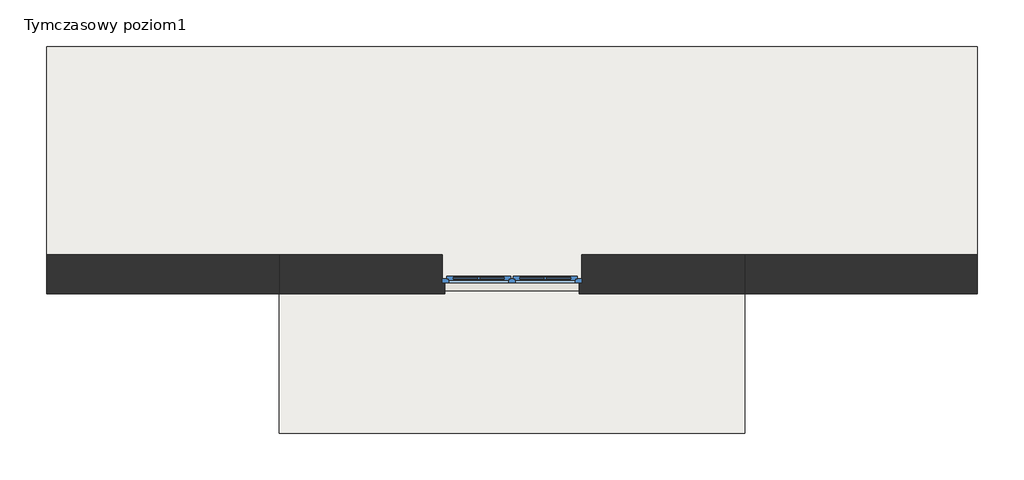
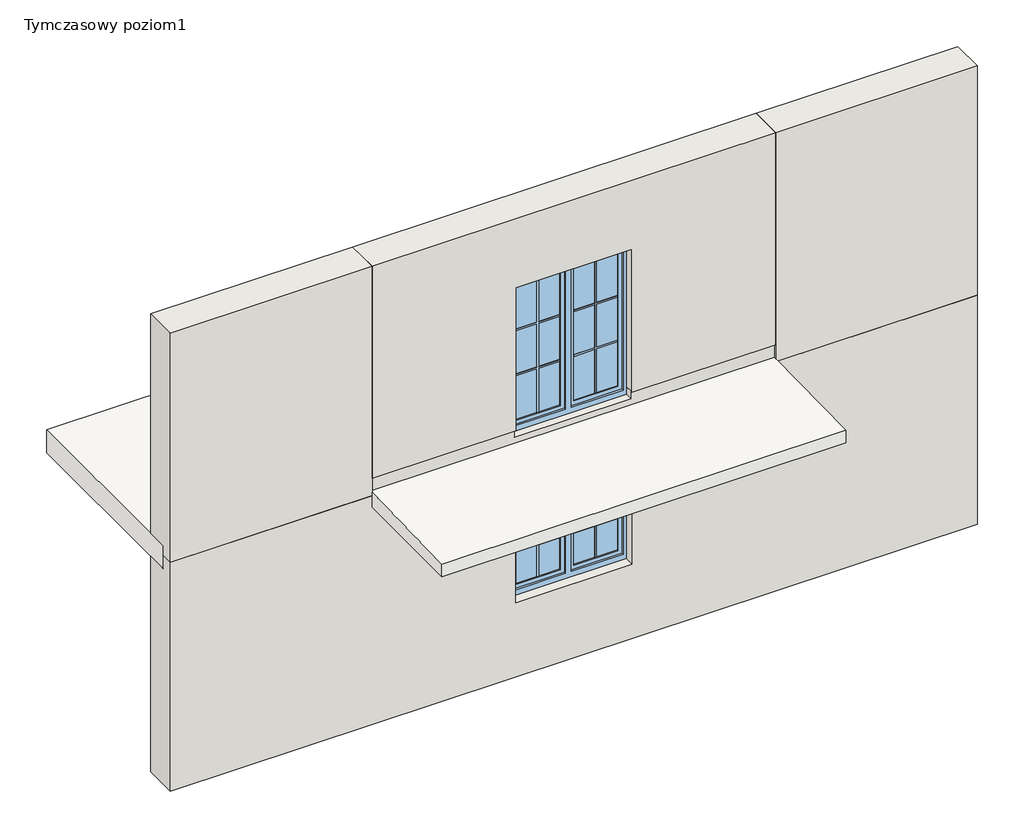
# One storey, part 1 of 4: 5 walls, 2 slabs, 2 windows.
"""IFC4 building model written with IfcOpenShell, lengths in millimetres."""

from ifc_helpers import new_model, si_unit, origin, place, context, project, spatial, faceted_brep, transform, mapped, element, save
from components import window_150x150_51b7f79a, window_150x200_12b14935

model = new_model("IFC4")

# Units and contexts
model_context = context("Model", 3, world=origin())
ifc_project = project(units=[si_unit("LENGTHUNIT", "METRE", prefix="MILLI")], contexts=[model_context])

# Site, building, storey
site = spatial("IfcSite", under=ifc_project)
building = spatial("IfcBuilding", under=site)
storey = spatial("IfcBuildingStorey", under=building, Name="Tymczasowy poziom1", Elevation=0.0)

# Slabs
placement = place(None, origin())
element("IfcSlab", 1, ObjectType="Balkon - posadzka żywiczna cienkowarstwowa", at=placement, inside=storey, context=model_context, shape_type="Brep", body=[
    faceted_brep([(-110659.9843298, 30072.1556932, -277.2), (-110659.9843298, 31572.1556932, -277.2), (-110659.9843298, 31680.1556932, -277.2), (-105659.9843298, 31680.1556932, -277.2), (-105659.9843298, 31572.1556932, -277.2), (-105659.9843298, 30072.1556932, -277.2), (-110659.9843298, 30072.1556932, -114.0), (-110659.9843298, 31602.1556932, -83.5522388), (-110659.9843298, 31680.1556932, -82.0), (-110659.9843298, 31680.1556932, -125.0), (-105659.9843298, 31680.1556932, -82.0), (-105659.9843298, 31680.1556932, -125.0), (-105659.9843298, 30072.1556932, -114.0), (-105659.9843298, 31602.1556932, -83.5522388)], [[[0, 1, 2, 3, 4, 5]], [[2, 1, 0, 6, 7, 8, 9]], [[3, 2, 9, 8, 10, 11]], [[0, 5, 12, 6]], [[5, 4, 3, 11, 10, 13, 12]], [[12, 13, 10, 8, 7, 6]]]),
])
element("IfcSlab", 2, ObjectType="Strop", at=placement, inside=storey, context=model_context, shape_type="Brep", body=[
    faceted_brep([(-103159.9843298, 31727.1556932, -300.0), (-113159.9843298, 31727.1556932, -300.0), (-113159.9843298, 31992.1556932, -300.0), (-113159.9843298, 34227.1556932, -300.0), (-103159.9843298, 34227.1556932, -300.0), (-103159.9843298, 31992.1556932, -300.0), (-103159.9843298, 31727.1556932, 0.0), (-103159.9843298, 31992.1556932, 0.0), (-103159.9843298, 34227.1556932, 0.0), (-113159.9843298, 34227.1556932, 0.0), (-113159.9843298, 31992.1556932, 0.0), (-113159.9843298, 31727.1556932, 0.0), (-110659.9843298, 31727.1556932, 0.0), (-108909.9843298, 31727.1556932, 0.0), (-107409.9843298, 31727.1556932, 0.0), (-105659.9843298, 31727.1556932, 0.0), (-103159.9843298, 31727.1556932, -125.0), (-113159.9843298, 31727.1556932, -125.0)], [[[0, 1, 2, 3, 4, 5]], [[6, 7, 8, 9, 10, 11, 12, 13, 14, 15]], [[1, 0, 16, 6, 15, 14, 13, 12, 11, 17]], [[3, 2, 1, 17, 11, 10, 9]], [[4, 3, 9, 8]], [[0, 5, 4, 8, 7, 6, 16]]]),
])

# Walls
element("IfcWall", 3, ObjectType="Porotherm P+W 25 + o15 + t", at=placement, inside=storey, context=model_context, shape_type="Brep", body=[
    faceted_brep([(-113159.9843298, 31572.1556932, -3125.0), (-103159.9843298, 31572.1556932, -3125.0), (-103159.9843298, 31572.1556932, -125.0), (-105659.9843298, 31572.1556932, -125.0), (-105659.9843298, 31572.1556932, -277.2), (-110659.9843298, 31572.1556932, -277.2), (-110659.9843298, 31572.1556932, -125.0), (-113159.9843298, 31572.1556932, -125.0), (-107439.9843298, 31572.1556932, -680.0), (-107439.9843298, 31572.1556932, -2150.0), (-108879.9843298, 31572.1556932, -2150.0), (-108879.9843298, 31572.1556932, -680.0), (-103159.9843298, 31992.1556932, -3125.0), (-113159.9843298, 31992.1556932, -3125.0), (-113159.9843298, 31992.1556932, -300.0), (-103159.9843298, 31992.1556932, -300.0), (-107409.9843298, 31992.1556932, -2150.0), (-107409.9843298, 31992.1556932, -650.0), (-108909.9843298, 31992.1556932, -650.0), (-108909.9843298, 31992.1556932, -2150.0), (-103159.9843298, 31727.1556932, -300.0), (-103159.9843298, 31727.1556932, -125.0), (-105659.9843298, 31727.1556932, -125.0), (-110659.9843298, 31727.1556932, -125.0), (-113159.9843298, 31727.1556932, -125.0), (-110659.9843298, 31680.1556932, -125.0), (-105659.9843298, 31680.1556932, -125.0), (-113159.9843298, 31727.1556932, -300.0), (-107409.9843298, 31692.1556932, -650.0), (-107409.9843298, 31692.1556932, -2150.0), (-107439.9843298, 31692.1556932, -680.0), (-107439.9843298, 31692.1556932, -2150.0), (-105659.9843298, 31680.1556932, -277.2), (-110659.9843298, 31680.1556932, -277.2), (-108909.9843298, 31692.1556932, -650.0), (-108909.9843298, 31692.1556932, -2150.0), (-108879.9843298, 31692.1556932, -2150.0), (-108879.9843298, 31692.1556932, -680.0)], [[[0, 1, 2, 3, 4, 5, 6, 7], [8, 9, 10, 11]], [[12, 13, 14, 15], [16, 17, 18, 19]], [[1, 0, 13, 12]], [[2, 1, 12, 15, 20, 21]], [[2, 21, 22, 23, 24, 7, 6, 25, 26, 3]], [[0, 7, 24, 27, 14, 13]], [[28, 17, 16, 29]], [[8, 30, 31, 9]], [[27, 20, 15, 14]], [[20, 27, 24, 23, 22, 21]], [[32, 33, 5, 4]], [[5, 33, 25, 6]], [[33, 32, 26, 25]], [[32, 4, 3, 26]], [[17, 28, 34, 18]], [[29, 16, 19, 35, 36, 10, 9, 31]], [[34, 28, 29, 31, 30, 37, 36, 35]], [[34, 35, 19, 18]], [[30, 8, 11, 37]], [[10, 36, 37, 11]]]),
])
element("IfcWall", 4, ObjectType="Porotherm P+W 25 + o15 + t", at=placement, inside=storey, context=model_context, shape_type="Brep", body=[
    faceted_brep([(-113159.9843298, 31572.1556932, -125.0), (-110659.9843298, 31572.1556932, -125.0), (-110659.9843298, 31572.1556932, 100.0), (-110659.9843298, 31572.1556932, 2875.0), (-113159.9843298, 31572.1556932, 2875.0), (-113159.9843298, 31992.1556932, 2875.0), (-110659.9843298, 31992.1556932, 2875.0), (-110659.9843298, 31992.1556932, 100.0), (-110659.9843298, 31992.1556932, 0.0), (-113159.9843298, 31992.1556932, 0.0), (-113159.9843298, 31727.1556932, -125.0), (-110659.9843298, 31727.1556932, -125.0), (-110659.9843298, 31680.1556932, -125.0), (-113159.9843298, 31727.1556932, 0.0), (-110659.9843298, 31727.1556932, 0.0)], [[[0, 1, 2, 3, 4]], [[5, 6, 7, 8, 9]], [[1, 0, 10, 11, 12]], [[4, 3, 6, 5]], [[0, 4, 5, 9, 13, 10]], [[14, 13, 9, 8]], [[13, 14, 11, 10]], [[6, 3, 2, 1, 12, 11, 14, 8, 7]]]),
])
element("IfcWall", 5, ObjectType="Porotherm P+W 25 + o15 + t", at=placement, inside=storey, context=model_context, shape_type="Brep", body=[
    faceted_brep([(-105659.9843298, 31572.1556932, -125.0), (-103159.9843298, 31572.1556932, -125.0), (-103159.9843298, 31572.1556932, 2875.0), (-105659.9843298, 31572.1556932, 2875.0), (-105659.9843298, 31572.1556932, 100.0), (-105659.9843298, 31992.1556932, 2875.0), (-103159.9843298, 31992.1556932, 2875.0), (-103159.9843298, 31992.1556932, 0.0), (-105659.9843298, 31992.1556932, 0.0), (-105659.9843298, 31992.1556932, 100.0), (-105659.9843298, 31680.1556932, -125.0), (-105659.9843298, 31727.1556932, -125.0), (-103159.9843298, 31727.1556932, -125.0), (-103159.9843298, 31727.1556932, 0.0), (-105659.9843298, 31727.1556932, 0.0)], [[[0, 1, 2, 3, 4]], [[5, 6, 7, 8, 9]], [[1, 0, 10, 11, 12]], [[2, 1, 12, 13, 7, 6]], [[3, 2, 6, 5]], [[13, 14, 8, 7]], [[14, 13, 12, 11]], [[3, 5, 9, 8, 14, 11, 10, 0, 4]]]),
])
element("IfcWall", 6, ObjectType="Porotherm P+W 25 + o12 + t", at=placement, inside=storey, context=model_context, shape_type="Brep", body=[
    faceted_brep([(-105659.9843298, 31602.1556932, -83.5522388), (-105659.9843298, 31602.1556932, 100.0), (-107439.9843298, 31602.1556932, 100.0), (-107439.9843298, 31602.1556932, 0.0), (-108879.9843298, 31602.1556932, 0.0), (-108879.9843298, 31602.1556932, 100.0), (-110659.9843298, 31602.1556932, 100.0), (-110659.9843298, 31602.1556932, -83.5522388), (-107409.9843298, 31992.1556932, 100.0), (-105659.9843298, 31992.1556932, 100.0), (-105659.9843298, 31992.1556932, 0.0), (-107409.9843298, 31992.1556932, 0.0), (-110659.9843298, 31992.1556932, 100.0), (-108909.9843298, 31992.1556932, 100.0), (-108909.9843298, 31992.1556932, 0.0), (-110659.9843298, 31992.1556932, 0.0), (-105659.9843298, 31680.1556932, -125.0), (-110659.9843298, 31680.1556932, -125.0), (-110659.9843298, 31727.1556932, -125.0), (-105659.9843298, 31727.1556932, -125.0), (-105659.9843298, 31680.1556932, -82.0), (-105659.9843298, 31727.1556932, 0.0), (-107409.9843298, 31692.1556932, 100.0), (-107439.9843298, 31692.1556932, 100.0), (-108879.9843298, 31692.1556932, 100.0), (-108909.9843298, 31692.1556932, 100.0), (-110659.9843298, 31727.1556932, 0.0), (-110659.9843298, 31680.1556932, -82.0), (-107409.9843298, 31727.1556932, 0.0), (-108909.9843298, 31727.1556932, 0.0), (-108909.9843298, 31692.1556932, 0.0), (-108879.9843298, 31692.1556932, 0.0), (-107439.9843298, 31692.1556932, 0.0), (-107409.9843298, 31692.1556932, 0.0)], [[[0, 1, 2, 3, 4, 5, 6, 7]], [[8, 9, 10, 11]], [[12, 13, 14, 15]], [[16, 17, 18, 19]], [[9, 1, 0, 20, 16, 19, 21, 10]], [[1, 9, 8, 22, 23, 2]], [[12, 6, 5, 24, 25, 13]], [[6, 12, 15, 26, 18, 17, 27, 7]], [[20, 27, 17, 16]], [[27, 20, 0, 7]], [[21, 28, 11, 10]], [[29, 26, 15, 14]], [[28, 21, 19, 18, 26, 29]], [[30, 31, 4, 3, 32, 33, 28, 29]], [[31, 30, 25, 24]], [[33, 32, 23, 22]], [[33, 22, 8, 11, 28]], [[25, 30, 29, 14, 13]], [[32, 3, 2, 23]], [[4, 31, 24, 5]]]),
])
element("IfcWall", 7, ObjectType="Porotherm P+W 25 + o15 + t", at=placement, inside=storey, context=model_context, shape_type="Brep", body=[
    faceted_brep([(-105659.9843298, 31572.1556932, 100.0), (-105659.9843298, 31572.1556932, 2875.0), (-110659.9843298, 31572.1556932, 2875.0), (-110659.9843298, 31572.1556932, 100.0), (-108879.9843298, 31572.1556932, 100.0), (-108879.9843298, 31572.1556932, 1970.0), (-107439.9843298, 31572.1556932, 1970.0), (-107439.9843298, 31572.1556932, 100.0), (-105659.9843298, 31992.1556932, 2875.0), (-105659.9843298, 31992.1556932, 100.0), (-107409.9843298, 31992.1556932, 100.0), (-107409.9843298, 31992.1556932, 2000.0), (-108909.9843298, 31992.1556932, 2000.0), (-108909.9843298, 31992.1556932, 100.0), (-110659.9843298, 31992.1556932, 100.0), (-110659.9843298, 31992.1556932, 2875.0), (-110659.9843298, 31602.1556932, 100.0), (-108909.9843298, 31692.1556932, 100.0), (-108879.9843298, 31692.1556932, 100.0), (-108879.9843298, 31602.1556932, 100.0), (-105659.9843298, 31602.1556932, 100.0), (-107439.9843298, 31602.1556932, 100.0), (-107439.9843298, 31692.1556932, 100.0), (-107409.9843298, 31692.1556932, 100.0), (-107409.9843298, 31692.1556932, 2000.0), (-107439.9843298, 31692.1556932, 1970.0), (-108909.9843298, 31692.1556932, 2000.0), (-108879.9843298, 31692.1556932, 1970.0)], [[[0, 1, 2, 3, 4, 5, 6, 7]], [[8, 9, 10, 11, 12, 13, 14, 15]], [[3, 16, 14, 13, 17, 18, 19, 4]], [[9, 20, 0, 7, 21, 22, 23, 10]], [[1, 0, 20, 9, 8]], [[2, 1, 8, 15]], [[3, 2, 15, 14, 16]], [[24, 11, 10, 23]], [[6, 25, 22, 21, 7]], [[26, 12, 11, 24]], [[26, 24, 23, 22, 25, 27, 18, 17]], [[12, 26, 17, 13]], [[27, 25, 6, 5]], [[27, 5, 4, 19, 18]]]),
])

# Windows
window_150x150_shape = window_150x150_51b7f79a(model_context)
element("IfcWindow", 8, ObjectType="OKNO_2X_W_SZ : 150x150", at=placement, inside=storey, context=model_context, shape_type="MappedRepresentation", body=[
    mapped(window_150x150_shape, transform((-108159.9843298, 31782.1556932, -3000.0), x_axis=(-1.0, 0.0, 0.0), y_axis=(0.0, -1.0, 0.0), z_axis=(0.0, 0.0, 1.0))),
])
window_150x200_shape = window_150x200_12b14935(model_context)
element("IfcWindow", 9, ObjectType="OKNO_2X_W_SZ : 150x200", at=placement, inside=storey, context=model_context, shape_type="MappedRepresentation", body=[
    mapped(window_150x200_shape, transform((-108159.9843298, 31782.1556932, -850.0), x_axis=(-1.0, 0.0, 0.0), y_axis=(0.0, -1.0, 0.0), z_axis=(0.0, 0.0, 1.0))),
])

save(model, "model.ifc")
